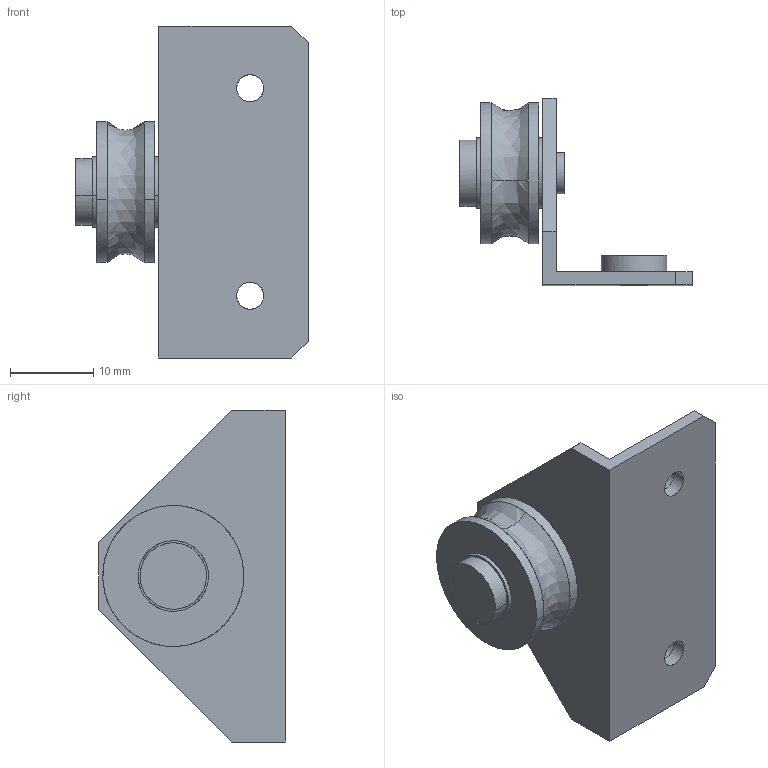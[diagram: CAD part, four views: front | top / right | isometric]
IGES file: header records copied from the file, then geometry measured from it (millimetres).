
Global section: file name: No Iges File Name specified; native system: AutoDesk Inventor R11.0; preprocessor: AutoDesk Inventor Iges Exporter R11.0; author: No Author specified; organization: No Organization specified; date: 20190511.110224; units: millimetre
Bounding box: 28 x 22.5 x 40 mm (x, y, z)
Surface area: 4054.6 mm2 (no closed solid volume)
Topology: 0 solids, 0 shells, 50 faces, 336 edges, 336 vertices
Faces by surface type: bspline 50
